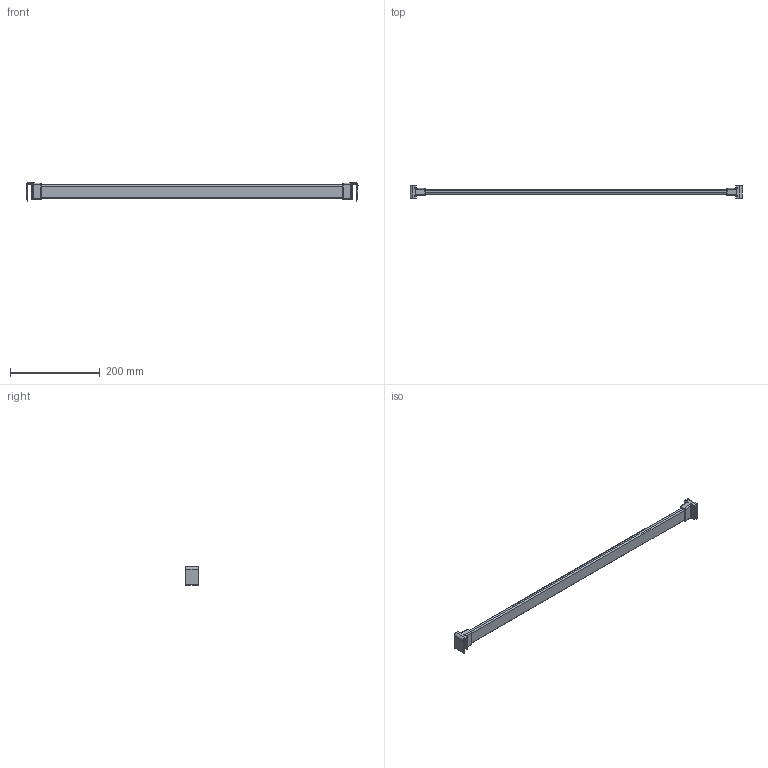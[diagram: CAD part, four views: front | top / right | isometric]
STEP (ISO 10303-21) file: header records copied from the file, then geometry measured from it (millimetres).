
FILE_DESCRIPTION (( 'STEP AP214' ), '1' );
FILE_NAME ('_Querreling_KAB-800_KS-16_P602_Glashalter.step', '2010-08-26T14:59:35', ( 'grass' ), ( '' ), 'SwSTEP 2.0', 'SolidWorks 2009', '' );
FILE_SCHEMA (( 'AUTOMOTIVE_DESIGN' ));
Length unit declared in the file: millimetre
Products named in the file (1): _Querreling_KAB-800_KS-16_P602_Glashalter
Bounding box: 740.78 x 30 x 41.5 mm (x, y, z)
Volume: 243237.2 mm3; surface area: 65992.6 mm2
Topology: 1 solids, 1 shells, 124 faces, 300 edges, 176 vertices
Faces by surface type: cylinder 58, plane 34, torus 16, bspline 12, sphere 4
Entity records: 5090 total; most frequent: CARTESIAN_POINT 2269, ORIENTED_EDGE 592, DIRECTION 590, EDGE_CURVE 296, AXIS2_PLACEMENT_3D 225, VERTEX_POINT 176, VECTOR 140, LINE 140
